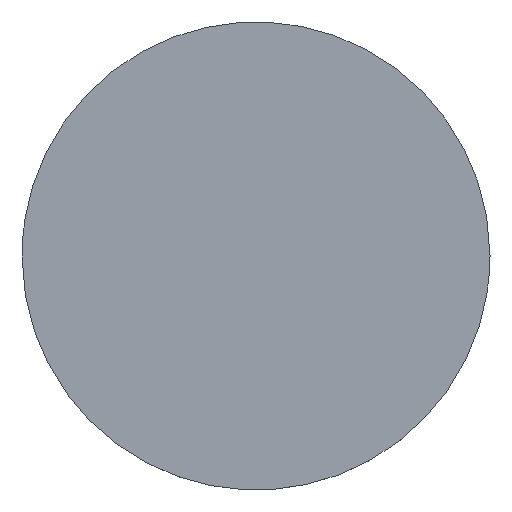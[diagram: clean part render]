
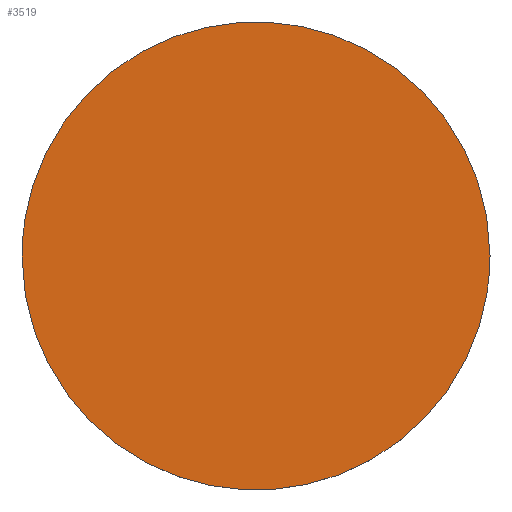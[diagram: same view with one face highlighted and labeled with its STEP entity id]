
A CAD part, top view. The second image highlights one B-rep face of the part: STEP entity #3519.
In plain terms, the highlighted free-form (B-spline) face has degree [1, 1] with [2, 2] control points.
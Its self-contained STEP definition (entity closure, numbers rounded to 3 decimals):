
#72 = CARTESIAN_POINT ( 'NONE',  ( -7499.737, -1064.12, 730. ) ) ;
#315 = VERTEX_POINT ( 'NONE', #1836 ) ;
#571 =( BOUNDED_CURVE ( )  B_SPLINE_CURVE ( 2, ( #1157, #1962, #3063, #72, #1692 ),
 .UNSPECIFIED., .F., .F. ) 
 B_SPLINE_CURVE_WITH_KNOTS ( ( 3, 2, 3 ),
 ( 0., 90., 180. ),
 .UNSPECIFIED. ) 
 CURVE ( )  GEOMETRIC_REPRESENTATION_ITEM ( )  RATIONAL_B_SPLINE_CURVE ( ( 1., 0.707, 1., 0.707, 1. ) ) 
 REPRESENTATION_ITEM ( '' )  );
#598 = EDGE_CURVE ( 'NONE', #1499, #315, #1199, .T. ) ;
#936 = B_SPLINE_SURFACE_WITH_KNOTS ( 'NONE', 1, 1, ( 
 ( #2321, #2011 ),
 ( #3407, #1254 ) ),
 .UNSPECIFIED., .F., .F., .F.,
 ( 2, 2 ),
 ( 2, 2 ),
 ( 149.999, 1350.001 ),
 ( 149.999, 1350.001 ),
 .UNSPECIFIED. ) ;
#968 = CARTESIAN_POINT ( 'NONE',  ( -6299.737, -2264.12, 730. ) ) ;
#1078 = EDGE_CURVE ( 'NONE', #315, #1499, #571, .T. ) ;
#1157 = CARTESIAN_POINT ( 'NONE',  ( -6299.737, -1664.12, 730. ) ) ;
#1199 =( BOUNDED_CURVE ( )  B_SPLINE_CURVE ( 2, ( #2838, #2565, #3386, #968, #3122 ),
 .UNSPECIFIED., .F., .T. ) 
 B_SPLINE_CURVE_WITH_KNOTS ( ( 3, 2, 3 ),
 ( 0., 90., 180. ),
 .UNSPECIFIED. ) 
 CURVE ( )  GEOMETRIC_REPRESENTATION_ITEM ( )  RATIONAL_B_SPLINE_CURVE ( ( 1., 0.707, 1., 0.707, 1. ) ) 
 REPRESENTATION_ITEM ( '' )  );
#1207 = CARTESIAN_POINT ( 'NONE',  ( -7499.737, -1664.12, 730. ) ) ;
#1254 = CARTESIAN_POINT ( 'NONE',  ( -6299.736, -1064.119, 730. ) ) ;
#1450 = FACE_OUTER_BOUND ( 'NONE', #2149, .T. ) ;
#1499 = VERTEX_POINT ( 'NONE', #1207 ) ;
#1561 = ORIENTED_EDGE ( 'NONE', *, *, #598, .T. ) ;
#1692 = CARTESIAN_POINT ( 'NONE',  ( -7499.737, -1664.12, 730. ) ) ;
#1836 = CARTESIAN_POINT ( 'NONE',  ( -6299.737, -1664.12, 730. ) ) ;
#1962 = CARTESIAN_POINT ( 'NONE',  ( -6299.737, -1064.12, 730. ) ) ;
#2011 = CARTESIAN_POINT ( 'NONE',  ( -7499.738, -1064.119, 730. ) ) ;
#2149 = EDGE_LOOP ( 'NONE', ( #3382, #1561 ) ) ;
#2321 = CARTESIAN_POINT ( 'NONE',  ( -7499.738, -2264.121, 730. ) ) ;
#2565 = CARTESIAN_POINT ( 'NONE',  ( -7499.737, -2264.12, 730. ) ) ;
#2838 = CARTESIAN_POINT ( 'NONE',  ( -7499.737, -1664.12, 730. ) ) ;
#3063 = CARTESIAN_POINT ( 'NONE',  ( -6899.737, -1064.12, 730. ) ) ;
#3122 = CARTESIAN_POINT ( 'NONE',  ( -6299.737, -1664.12, 730. ) ) ;
#3382 = ORIENTED_EDGE ( 'NONE', *, *, #1078, .T. ) ;
#3386 = CARTESIAN_POINT ( 'NONE',  ( -6899.737, -2264.12, 730. ) ) ;
#3407 = CARTESIAN_POINT ( 'NONE',  ( -6299.736, -2264.121, 730. ) ) ;
#3519 = ADVANCED_FACE ( 'NONE', ( #1450 ), #936, .T. ) ;
